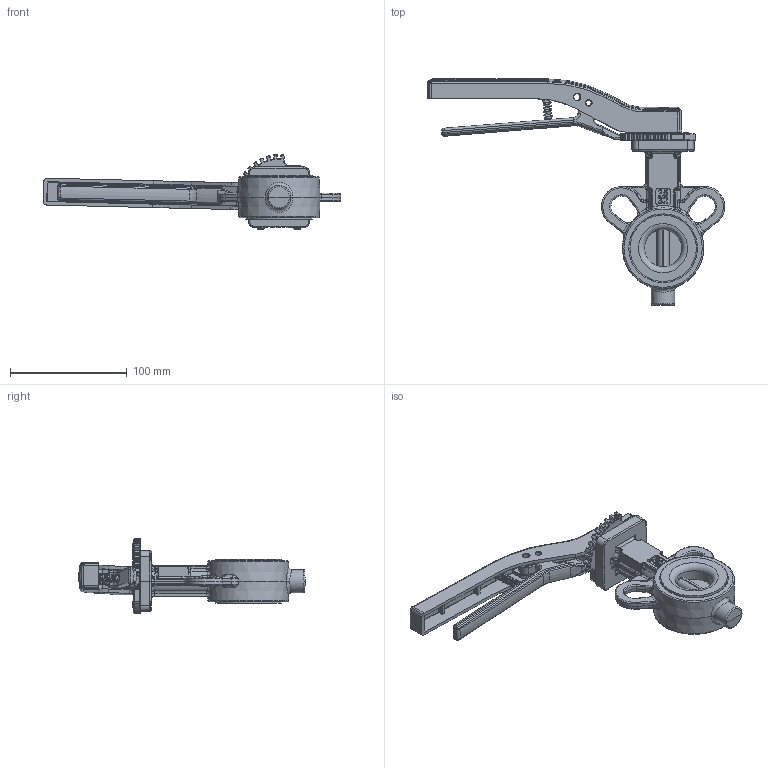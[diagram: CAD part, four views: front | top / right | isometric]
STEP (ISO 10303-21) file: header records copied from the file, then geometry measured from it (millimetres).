
FILE_DESCRIPTION(/* description */ (''),/* implementation_level */ '2;1');
FILE_NAME(/* name */ 'DN25-32.stp',/* time_stamp */ '2024-07-30T11:39:01+07:00',/* author */ ('Eva'),/* organization */ (''),/* preprocessor_version */ 'ST-DEVELOPER v20',/* originating_system */ 'Autodesk Inventor 2025',/* authorisation */ '');
FILE_SCHEMA (('AUTOMOTIVE_DESIGN { 1 0 10303 214 3 1 1 }'));
Products named in the file (9): DN25-32装配; DN25-32·§Ме; КЦ±ъЧЬіЙ(Д¬ИП-
_flexible1); DN50-DN80ЦчКЦ±ъ; DN50-DN80ё±КЦ±ъ; DN50-DN80іЭЕМ; µЇ»Й; ЖЅµжИ¦ Cј¶(ЖЅµжИ¦C
ј¶ 5); ДЪБщЅЗФІЦщН·ВЭ¶¤(
ДЪБщЅЗФІЦщН·ВЭ¶¤ 
M5X12-S)
Assembly tree (8 placements, depth 3):
  DN25-32装配
    DN25-32·§Ме
    КЦ±ъЧЬіЙ(Д¬ИП-
_flexible1)
      DN50-DN80ЦчКЦ±ъ
      DN50-DN80ё±КЦ±ъ
      DN50-DN80іЭЕМ
      µЇ»Й
      ЖЅµжИ¦ Cј¶(ЖЅµжИ¦C
ј¶ 5)
      ДЪБщЅЗФІЦщН·ВЭ¶¤(
ДЪБщЅЗФІЦщН·ВЭ¶¤ 
M5X12-S)
Bounding box: 254.95 x 194.12 x 63.94 mm (x, y, z)
Volume: 269779.6 mm3; surface area: 80310.3 mm2
Topology: 7 solids, 7 shells, 1804 faces, 4444 edges, 2646 vertices
Faces by surface type: plane 541, bspline 476, cylinder 410, cone 173, torus 144, sphere 60
Full cylindrical faces by diameter (mm): 4 x1, 5 x27, 5.5 x1, 6 x4, 7 x2, 8.5 x1, 10 x2, 17.2 x1, 18 x1, 20 x2, 32 x2, 35 x1, 56.928 x2
Entity records: 81058 total; most frequent: CARTESIAN_POINT 40176, ORIENTED_EDGE 8746, DIRECTION 7686, EDGE_CURVE 4373, AXIS2_PLACEMENT_3D 2829, VERTEX_POINT 2646, LINE 2028, VECTOR 2028
